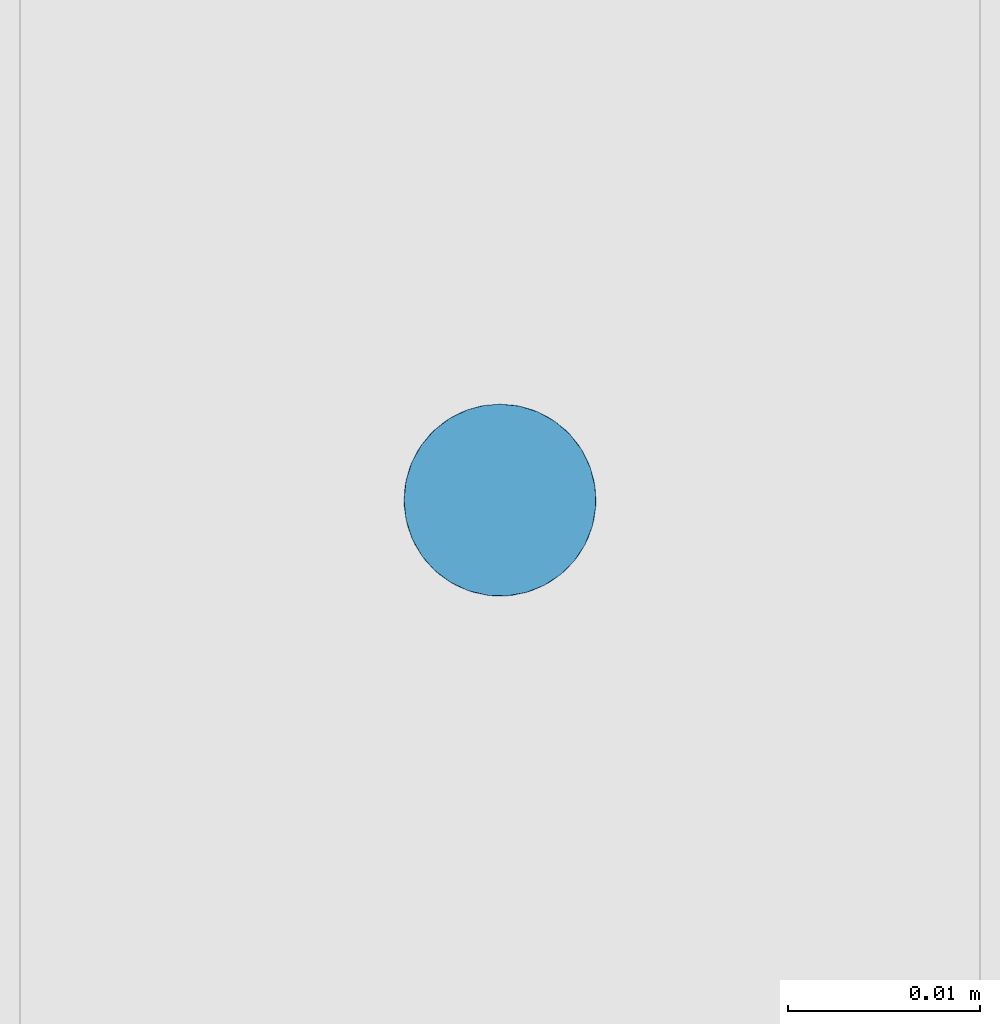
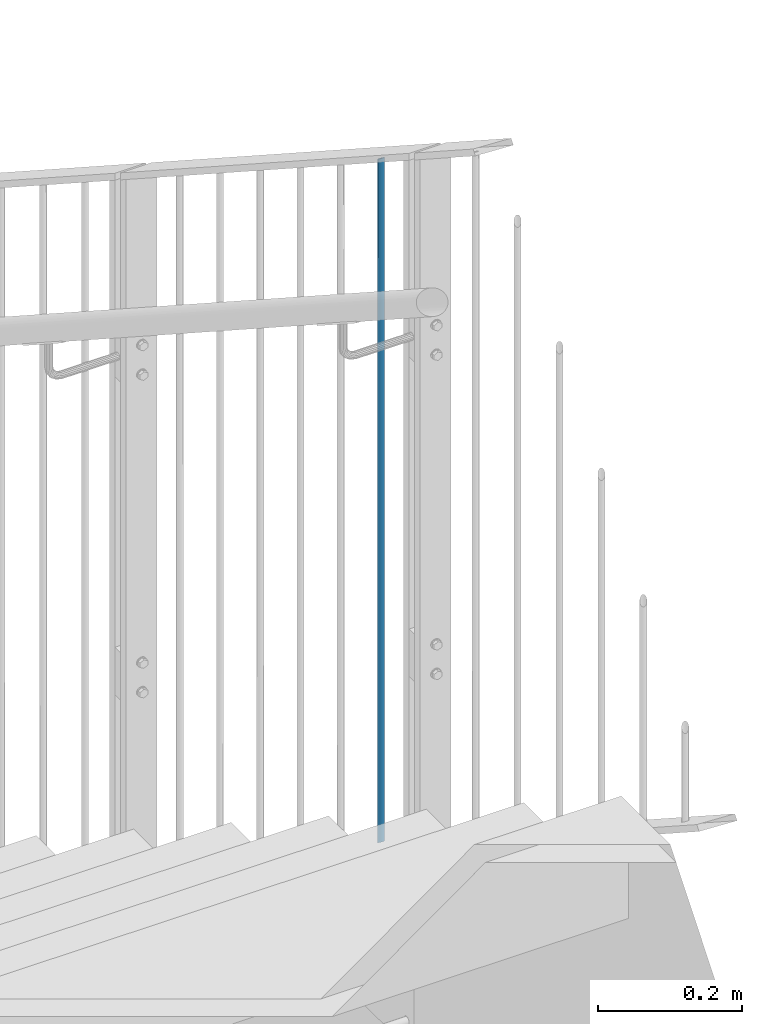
# One storey, part 35 of 296: 1 column.
"""IFC2X3 building model written with IfcOpenShell, lengths in millimetres."""

from ifc_helpers import new_model, entity, si_unit, converted_unit, frame, origin, origin_with_axes, origin_2d, place, context, project, spatial, circle, extrude, clip, halfspace, material, element, save


model = new_model("IFC2X3")

# Units and contexts
model_context = context("Model", 3, precision=1e-09, world=origin_with_axes())
ifc_project = project(units=[si_unit("LENGTHUNIT", "METRE", prefix="MILLI"), si_unit("AREAUNIT", "SQUARE_METRE"), si_unit("VOLUMEUNIT", "CUBIC_METRE"), converted_unit("PLANEANGLEUNIT", "DEGREE", entity("IfcPlaneAngleMeasure", 0.01745329), si_unit("PLANEANGLEUNIT", "RADIAN"), dimensions=[0, 0, 0, 0, 0, 0, 0])], contexts=[model_context])

# Site, building, storey
site_placement = place(None, origin_with_axes())
site = spatial("IfcSite", under=ifc_project, at=site_placement, Name="TZD-S?d | Treppenhausgel?nder", CompositionType="ELEMENT")
building_placement = place(site_placement, origin_with_axes())
building = spatial("IfcBuilding", under=site, at=building_placement, Name="Struktur 1", CompositionType="ELEMENT")
storey_placement = place(building_placement, origin_with_axes())
storey = spatial("IfcBuildingStorey", under=building, at=storey_placement, Name="Default Storey", CompositionType="ELEMENT", Elevation=0.0)

# Column
ifc_material = material(Name="S235JR")
column_placement = place(None, frame((5894.999, -2206.0714286, 8863.310531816), z_axis=(0.0, 0.0, -1.0), x_axis=(0.0, 1.0, 0.0)))
element("IfcColumn", 1, at=column_placement, inside=storey, material=ifc_material, Name="-", ObjectType="-", context=model_context, shape_type="Clipping", body=[
    clip(clip(extrude(circle(Radius=5.0, at=origin_2d()), origin(), (0.0, 0.0, -1.0), 1184.934996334), halfspace(frame((6132.322111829, -5894.999, 2801.120213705), z_axis=(-0.543608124, 0.0, 0.839339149), x_axis=(0.0, 1.0, 0.0)), True)), halfspace(frame((5604.794896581, -5894.999, 3615.630196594), z_axis=(0.543608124, 0.0, -0.839339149), x_axis=(0.0, -1.0, 0.0)), True)),
])

save(model, "model.ifc")
